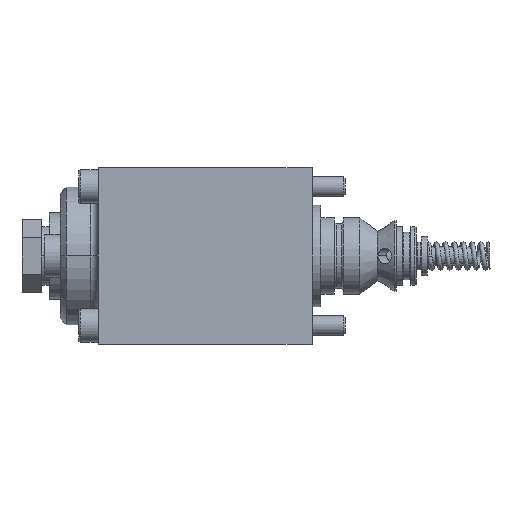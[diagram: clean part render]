
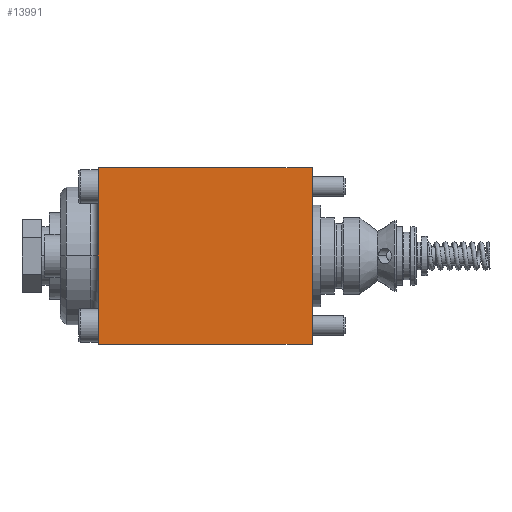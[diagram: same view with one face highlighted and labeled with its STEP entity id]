
A CAD part, front view. The second image highlights one B-rep face of the part: STEP entity #13991.
In plain terms, the highlighted planar face has unit normal (0, -1, 0).
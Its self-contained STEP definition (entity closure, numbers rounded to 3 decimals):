
#274 = CARTESIAN_POINT ( 'NONE',  ( -56.7, -22.5, -22.5 ) ) ;
#403 = FACE_OUTER_BOUND ( 'NONE', #15057, .T. ) ;
#1394 = AXIS2_PLACEMENT_3D ( 'NONE', #10548, #14303, #9324 ) ;
#2436 = ORIENTED_EDGE ( 'NONE', *, *, #15711, .T. ) ;
#2963 = LINE ( 'NONE', #7121, #5266 ) ;
#3522 = ORIENTED_EDGE ( 'NONE', *, *, #9337, .F. ) ;
#5227 = VERTEX_POINT ( 'NONE', #274 ) ;
#5266 = VECTOR ( 'NONE', #10893, 1000. ) ;
#5479 = LINE ( 'NONE', #15587, #9450 ) ;
#6921 = DIRECTION ( 'NONE',  ( -1., 0., 0. ) ) ;
#7092 = CARTESIAN_POINT ( 'NONE',  ( -56.7, -22.5, 22.5 ) ) ;
#7121 = CARTESIAN_POINT ( 'NONE',  ( 61.44, -22.5, -22.5 ) ) ;
#7799 = LINE ( 'NONE', #11804, #14334 ) ;
#8004 = CARTESIAN_POINT ( 'NONE',  ( 61.44, -22.5, 22.5 ) ) ;
#9252 = PLANE ( 'NONE',  #1394 ) ;
#9324 = DIRECTION ( 'NONE',  ( 1., 0., 0. ) ) ;
#9337 = EDGE_CURVE ( 'NONE', #10650, #5227, #2963, .T. ) ;
#9450 = VECTOR ( 'NONE', #13054, 1000. ) ;
#9525 = ORIENTED_EDGE ( 'NONE', *, *, #13247, .F. ) ;
#9733 = VECTOR ( 'NONE', #6921, 1000. ) ;
#10047 = CARTESIAN_POINT ( 'NONE',  ( -2.2, -22.5, -22.5 ) ) ;
#10548 = CARTESIAN_POINT ( 'NONE',  ( 61.44, -22.5, -22.5 ) ) ;
#10650 = VERTEX_POINT ( 'NONE', #10047 ) ;
#10893 = DIRECTION ( 'NONE',  ( -1., 0., 0. ) ) ;
#11804 = CARTESIAN_POINT ( 'NONE',  ( -56.7, -22.5, -22.5 ) ) ;
#11859 = LINE ( 'NONE', #8004, #9733 ) ;
#12128 = VERTEX_POINT ( 'NONE', #13817 ) ;
#13054 = DIRECTION ( 'NONE',  ( 0., 0., -1. ) ) ;
#13247 = EDGE_CURVE ( 'NONE', #5227, #13940, #7799, .T. ) ;
#13817 = CARTESIAN_POINT ( 'NONE',  ( -2.2, -22.5, 22.5 ) ) ;
#13940 = VERTEX_POINT ( 'NONE', #7092 ) ;
#13991 = ADVANCED_FACE ( 'NONE', ( #403 ), #9252, .T. ) ;
#14303 = DIRECTION ( 'NONE',  ( 0., -1., 0. ) ) ;
#14334 = VECTOR ( 'NONE', #16285, 1000. ) ;
#15057 = EDGE_LOOP ( 'NONE', ( #15831, #2436, #9525, #3522 ) ) ;
#15145 = EDGE_CURVE ( 'NONE', #12128, #10650, #5479, .T. ) ;
#15587 = CARTESIAN_POINT ( 'NONE',  ( -2.2, -22.5, -22.5 ) ) ;
#15711 = EDGE_CURVE ( 'NONE', #12128, #13940, #11859, .T. ) ;
#15831 = ORIENTED_EDGE ( 'NONE', *, *, #15145, .F. ) ;
#16285 = DIRECTION ( 'NONE',  ( 0., 0., 1. ) ) ;
